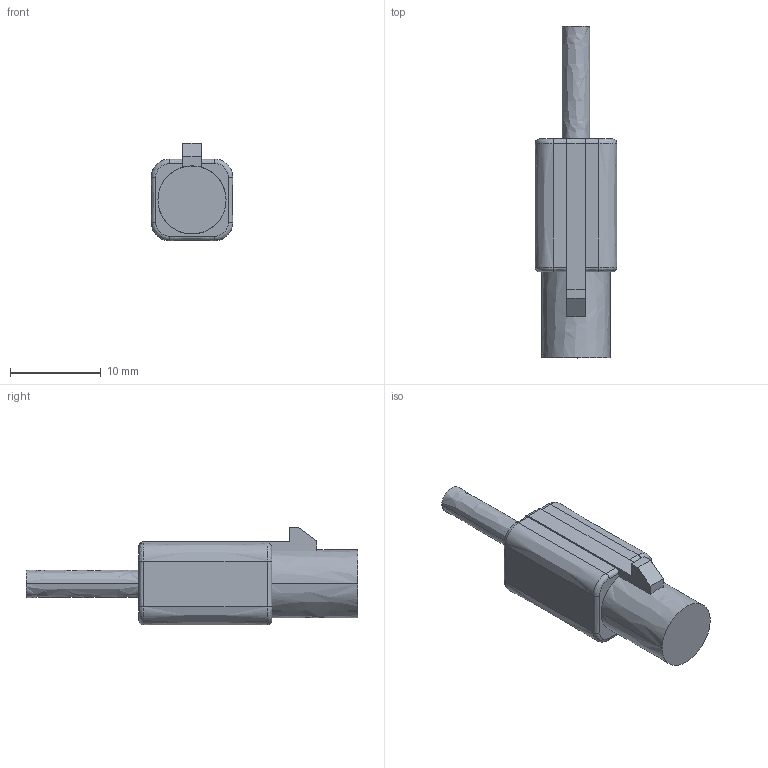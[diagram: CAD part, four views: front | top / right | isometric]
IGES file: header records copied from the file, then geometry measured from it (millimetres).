
Start section:  PTC IGES file: crc1001-5201f.igs
Global section: file name: crc1001-5201f.igs; native system: Pro/ENGINEER by Parametric Technology Corporation; preprocessor: 2011220; author: en-yo; organization: Unknown; date: 20131107.131726; units: millimetre
Bounding box: 9 x 36.6 x 10.75 mm (x, y, z)
Volume: 1661.1 mm3; surface area: 985.9 mm2
Topology: 1 solids, 1 shells, 43 faces, 104 edges, 64 vertices
Faces by surface type: bspline 43
